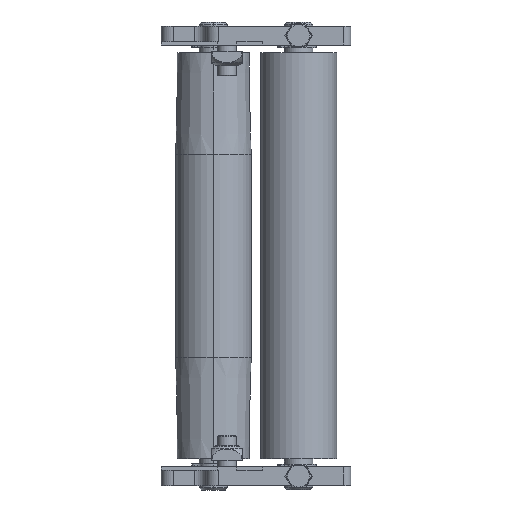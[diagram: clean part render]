
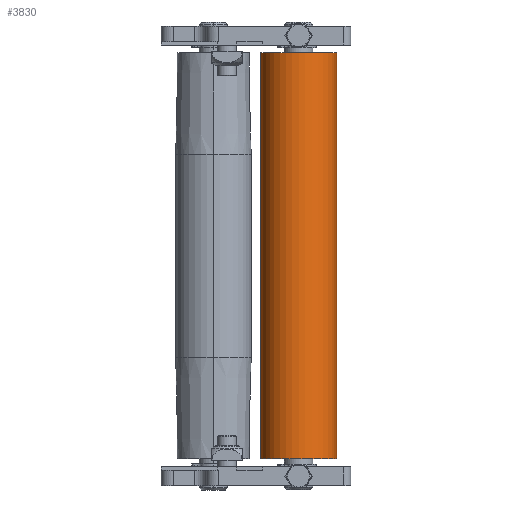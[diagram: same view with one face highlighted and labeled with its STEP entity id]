
A CAD part, left-side view. The second image highlights one B-rep face of the part: STEP entity #3830.
In plain terms, the highlighted cylindrical face has radius 16 mm (diameter 32 mm), a partial arc.
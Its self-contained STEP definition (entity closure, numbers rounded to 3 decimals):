
#356 = CYLINDRICAL_SURFACE ( 'NONE', #10245, 16. ) ;
#1218 = CARTESIAN_POINT ( 'NONE',  ( -16., 0., 85.75 ) ) ;
#1551 = ORIENTED_EDGE ( 'NONE', *, *, #8384, .T. ) ;
#1643 = DIRECTION ( 'NONE',  ( 0., 0., 1. ) ) ;
#1749 = DIRECTION ( 'NONE',  ( 0., 0., -1. ) ) ;
#2020 = CARTESIAN_POINT ( 'NONE',  ( -16., 0., 85.75 ) ) ;
#2137 = EDGE_CURVE ( 'NONE', #6475, #4100, #4417, .T. ) ;
#2455 = DIRECTION ( 'NONE',  ( 1., 0., 0. ) ) ;
#2477 = EDGE_CURVE ( 'NONE', #6475, #8297, #7689, .T. ) ;
#2602 = LINE ( 'NONE', #2904, #2740 ) ;
#2699 = CIRCLE ( 'NONE', #8971, 16. ) ;
#2740 = VECTOR ( 'NONE', #2937, 1000. ) ;
#2904 = CARTESIAN_POINT ( 'NONE',  ( 16., 0., 85.75 ) ) ;
#2937 = DIRECTION ( 'NONE',  ( 0., 0., -1. ) ) ;
#3334 = CARTESIAN_POINT ( 'NONE',  ( 0., 0., -85.75 ) ) ;
#3830 = ADVANCED_FACE ( 'NONE', ( #9687 ), #356, .T. ) ;
#3894 = ORIENTED_EDGE ( 'NONE', *, *, #2137, .F. ) ;
#4091 = DIRECTION ( 'NONE',  ( 1., 0., 0. ) ) ;
#4100 = VERTEX_POINT ( 'NONE', #6169 ) ;
#4152 = ORIENTED_EDGE ( 'NONE', *, *, #2477, .T. ) ;
#4417 = CIRCLE ( 'NONE', #5444, 16. ) ;
#5053 = DIRECTION ( 'NONE',  ( -1., 0., 0. ) ) ;
#5444 = AXIS2_PLACEMENT_3D ( 'NONE', #9283, #6645, #4091 ) ;
#5575 = VECTOR ( 'NONE', #8196, 1000. ) ;
#5983 = VERTEX_POINT ( 'NONE', #8017 ) ;
#6169 = CARTESIAN_POINT ( 'NONE',  ( 16., 0., 85.75 ) ) ;
#6475 = VERTEX_POINT ( 'NONE', #2020 ) ;
#6645 = DIRECTION ( 'NONE',  ( 0., 0., 1. ) ) ;
#7689 = LINE ( 'NONE', #1218, #5575 ) ;
#8017 = CARTESIAN_POINT ( 'NONE',  ( 16., 0., -85.75 ) ) ;
#8196 = DIRECTION ( 'NONE',  ( 0., 0., -1. ) ) ;
#8297 = VERTEX_POINT ( 'NONE', #10557 ) ;
#8384 = EDGE_CURVE ( 'NONE', #8297, #5983, #2699, .T. ) ;
#8707 = EDGE_LOOP ( 'NONE', ( #10714, #3894, #4152, #1551 ) ) ;
#8971 = AXIS2_PLACEMENT_3D ( 'NONE', #3334, #1643, #2455 ) ;
#9283 = CARTESIAN_POINT ( 'NONE',  ( 0., 0., 85.75 ) ) ;
#9687 = FACE_OUTER_BOUND ( 'NONE', #8707, .T. ) ;
#10104 = EDGE_CURVE ( 'NONE', #4100, #5983, #2602, .T. ) ;
#10217 = CARTESIAN_POINT ( 'NONE',  ( 0., 0., 85.75 ) ) ;
#10245 = AXIS2_PLACEMENT_3D ( 'NONE', #10217, #1749, #5053 ) ;
#10557 = CARTESIAN_POINT ( 'NONE',  ( -16., 0., -85.75 ) ) ;
#10714 = ORIENTED_EDGE ( 'NONE', *, *, #10104, .F. ) ;
